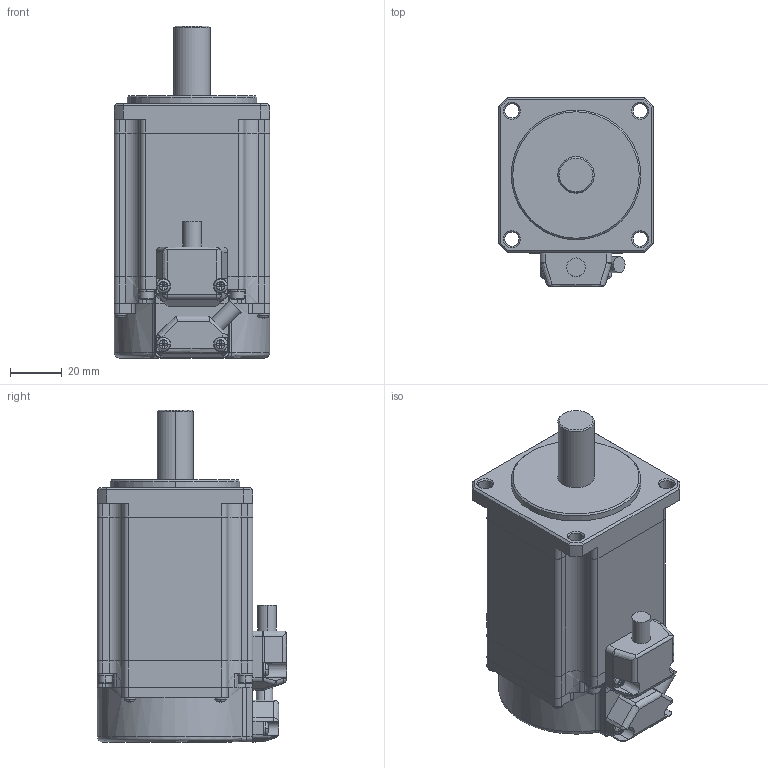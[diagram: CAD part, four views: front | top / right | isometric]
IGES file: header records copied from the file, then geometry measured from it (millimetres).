
Start section: Elysium IGES Interface
Global section: file name: 79H\\nas63\design\04MC研\saka\3DCAD\TBL-i2カタログまとめ\IGSデータ\TS4609_BK無.igs; native system: Creo Elements/Direct Modeling 17.0F  20-Aug-2012; preprocessor: Creo Element/Direct IGES_3D V2.2; author: Unknown; organization: Unknown; date: 20161222.162406; units: millimetre
Bounding box: 60 x 73 x 128.1 mm (x, y, z)
Volume: 330610.1 mm3; surface area: 33123.6 mm2
Topology: 1 solids, 1 shells, 684 faces, 1571 edges, 884 vertices
Faces by surface type: bspline 684
